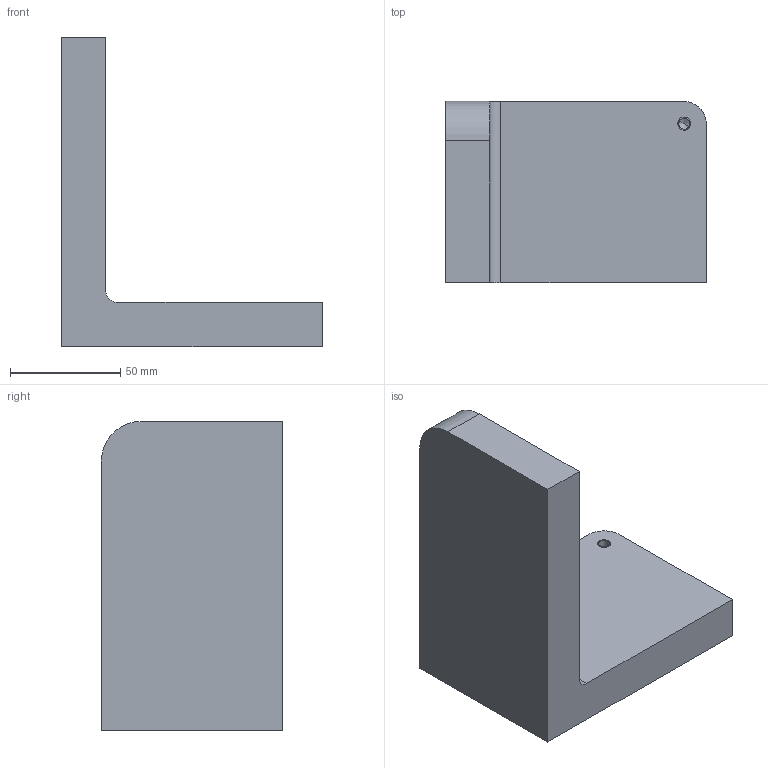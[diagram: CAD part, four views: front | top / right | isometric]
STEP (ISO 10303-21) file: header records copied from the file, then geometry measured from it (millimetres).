
FILE_DESCRIPTION(('CATIA V5 STEP Exchange'),'2;1');
FILE_NAME('C:\_Andres\UNIVERSIDAD\IQS\ASIGNATURAS\DAO\EXF\EXF-16172c\2inicio\Marinetto_Rohr_Ej01_v18.stp','2017-03-05T15:11:08+00:00',('none'),('none'),'CATIA Version 5-6 Release 2014 SP1 HF18','CATIA V5 STEP AP203','none');
FILE_SCHEMA(('CONFIG_CONTROL_DESIGN'));
Length unit declared in the file: millimetre
Products named in the file (1): Marinetto_Rohr_Ej01_v18
Bounding box: 118 x 82 x 140 mm (x, y, z)
Volume: 388627.3 mm3; surface area: 51720.7 mm2
Topology: 1 solids, 2 shells, 17 faces, 43 edges, 27 vertices
Faces by surface type: plane 8, cylinder 7, cone 2
Entity records: 513 total; most frequent: CARTESIAN_POINT 83, ORIENTED_EDGE 78, DIRECTION 69, EDGE_CURVE 41, AXIS2_PLACEMENT_3D 29, VECTOR 27, LINE 27, VERTEX_POINT 27
